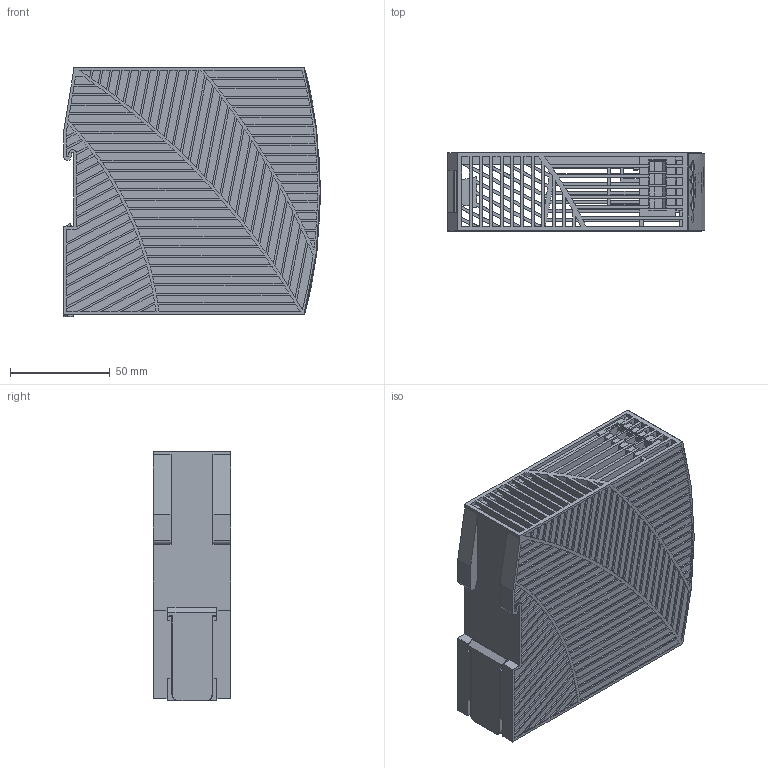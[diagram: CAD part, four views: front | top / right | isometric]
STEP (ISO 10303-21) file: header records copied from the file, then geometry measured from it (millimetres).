
FILE_DESCRIPTION(/* description */ ('','CAx-IF Rec.Pracs.---Representation and Presentation of Product Manufacturing Information (PMI)---3.8---2014-02-18'),/* implementation_level */ '2;1');
FILE_NAME(/* name */ 'L:\MKT-GER\Daten von KO\427.00 (PIRD20.241)\md3_pird20_241.stp',/* time_stamp */ '2016-08-05T09:04:57+02:00',/* author */ ('rahns'),/* organization */ (''),/* preprocessor_version */ 'ST-DEVELOPER v16.1',/* originating_system */ 'Autodesk Inventor 2016',/* authorisation */ '');
FILE_SCHEMA (('AP242_MANAGED_MODEL_BASED_3D_ENGINEERING_MIM_LF { 1 0 10303 442 1 1 4 }'));
Length unit declared in the file: millimetre
Products named in the file (7): HOUSING BODY 411.00; HOUSING COVER 411.00; SLIDER 411.00; FRONTFOIL 427.00; XT-LP4BK_L-DS; XT-LP3BK-R-D2 ; 427.00
Assembly tree (6 placements, depth 2):
  427.00
    HOUSING BODY 411.00
    HOUSING COVER 411.00
    SLIDER 411.00
    FRONTFOIL 427.00
    XT-LP4BK_L-DS
    XT-LP3BK-R-D2 
Bounding box: 128.95 x 39 x 125 mm (x, y, z)
Volume: 103584.2 mm3; surface area: 125474.8 mm2
Topology: 6 solids, 6 shells, 1603 faces, 4465 edges, 2965 vertices
Faces by surface type: plane 1180, cylinder 290, bspline 123, sphere 6, torus 4
Full cylindrical faces by diameter (mm): 0.2 x1, 4.5 x1, 5 x14, 5.15 x3
Entity records: 55256 total; most frequent: CARTESIAN_POINT 13607, ORIENTED_EDGE 8856, DIRECTION 7836, EDGE_CURVE 4428, LINE 3428, VECTOR 3428, VERTEX_POINT 2948, AXIS2_PLACEMENT_3D 2204
